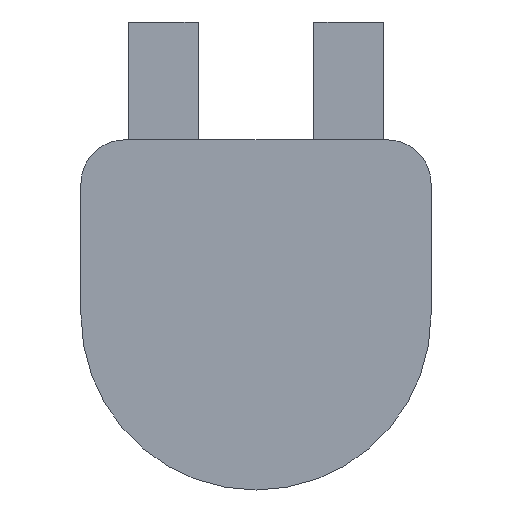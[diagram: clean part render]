
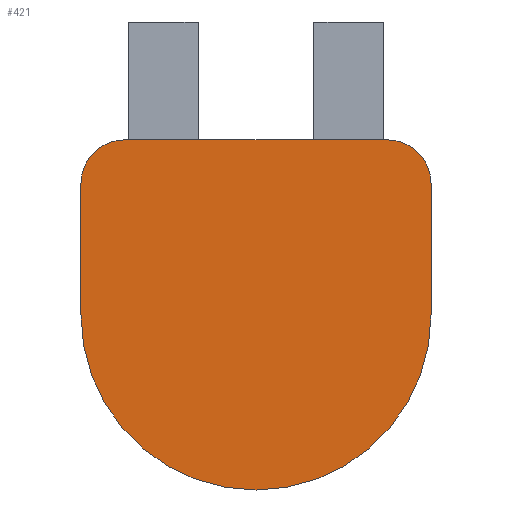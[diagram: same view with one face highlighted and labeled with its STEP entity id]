
A CAD part, front view. The second image highlights one B-rep face of the part: STEP entity #421.
In plain terms, the highlighted planar face has unit normal (0, -1, 0).
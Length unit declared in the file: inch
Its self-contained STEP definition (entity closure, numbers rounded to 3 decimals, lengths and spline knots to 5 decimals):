
#1 = CARTESIAN_POINT ( 'NONE',  ( -0.5625, 0., 0.5625 ) ) ;
#7 = ORIENTED_EDGE ( 'NONE', *, *, #392, .F. ) ;
#10 = VECTOR ( 'NONE', #273, 39.37008 ) ;
#18 = VERTEX_POINT ( 'NONE', #216 ) ;
#26 = CARTESIAN_POINT ( 'NONE',  ( 0., 0., 0. ) ) ;
#33 = DIRECTION ( 'NONE',  ( 0., 1., 0. ) ) ;
#37 = DIRECTION ( 'NONE',  ( 0., 1., 0. ) ) ;
#45 = DIRECTION ( 'NONE',  ( 0., 0., 1. ) ) ;
#56 = VERTEX_POINT ( 'NONE', #122 ) ;
#75 = CIRCLE ( 'NONE', #191, 0.75 ) ;
#86 = DIRECTION ( 'NONE',  ( 0., 1., 0. ) ) ;
#99 = EDGE_CURVE ( 'NONE', #434, #205, #452, .T. ) ;
#104 = VECTOR ( 'NONE', #306, 39.37008 ) ;
#122 = CARTESIAN_POINT ( 'NONE',  ( -0.5625, 0., 0.75 ) ) ;
#123 = CIRCLE ( 'NONE', #217, 0.1875 ) ;
#127 = DIRECTION ( 'NONE',  ( 0., 0., 1. ) ) ;
#128 = DIRECTION ( 'NONE',  ( 0., 0., 1. ) ) ;
#156 = CIRCLE ( 'NONE', #499, 0.1875 ) ;
#177 = LINE ( 'NONE', #353, #508 ) ;
#182 = CARTESIAN_POINT ( 'NONE',  ( -0.75, 0., 0. ) ) ;
#184 = FACE_OUTER_BOUND ( 'NONE', #209, .T. ) ;
#191 = AXIS2_PLACEMENT_3D ( 'NONE', #316, #86, #45 ) ;
#203 = VERTEX_POINT ( 'NONE', #182 ) ;
#205 = VERTEX_POINT ( 'NONE', #319 ) ;
#209 = EDGE_LOOP ( 'NONE', ( #326, #377, #289, #427, #7, #331, #284 ) ) ;
#216 = CARTESIAN_POINT ( 'NONE',  ( -0.75, 0., 0.5625 ) ) ;
#217 = AXIS2_PLACEMENT_3D ( 'NONE', #1, #357, #127 ) ;
#223 = LINE ( 'NONE', #526, #10 ) ;
#232 = CARTESIAN_POINT ( 'NONE',  ( 0., 0., 0.75 ) ) ;
#238 = EDGE_CURVE ( 'NONE', #18, #56, #123, .T. ) ;
#273 = DIRECTION ( 'NONE',  ( 0., 0., -1. ) ) ;
#284 = ORIENTED_EDGE ( 'NONE', *, *, #238, .F. ) ;
#289 = ORIENTED_EDGE ( 'NONE', *, *, #99, .F. ) ;
#306 = DIRECTION ( 'NONE',  ( 1., 0., 0. ) ) ;
#312 = DIRECTION ( 'NONE',  ( 0., 1., 0. ) ) ;
#316 = CARTESIAN_POINT ( 'NONE',  ( 0., 0., 0. ) ) ;
#319 = CARTESIAN_POINT ( 'NONE',  ( 0., 0., -0.75 ) ) ;
#326 = ORIENTED_EDGE ( 'NONE', *, *, #438, .F. ) ;
#328 = VERTEX_POINT ( 'NONE', #366 ) ;
#331 = ORIENTED_EDGE ( 'NONE', *, *, #399, .F. ) ;
#349 = CARTESIAN_POINT ( 'NONE',  ( 0.75, 0., 0. ) ) ;
#353 = CARTESIAN_POINT ( 'NONE',  ( -0.75, 0., 0. ) ) ;
#354 = DIRECTION ( 'NONE',  ( 0., 0., 1. ) ) ;
#357 = DIRECTION ( 'NONE',  ( 0., 1., 0. ) ) ;
#361 = CARTESIAN_POINT ( 'NONE',  ( 0., 0., 0. ) ) ;
#363 = AXIS2_PLACEMENT_3D ( 'NONE', #26, #37, #406 ) ;
#364 = EDGE_CURVE ( 'NONE', #564, #434, #223, .T. ) ;
#366 = CARTESIAN_POINT ( 'NONE',  ( 0.5625, 0., 0.75 ) ) ;
#377 = ORIENTED_EDGE ( 'NONE', *, *, #543, .F. ) ;
#392 = EDGE_CURVE ( 'NONE', #328, #564, #156, .T. ) ;
#398 = AXIS2_PLACEMENT_3D ( 'NONE', #361, #33, #457 ) ;
#399 = EDGE_CURVE ( 'NONE', #56, #328, #453, .T. ) ;
#406 = DIRECTION ( 'NONE',  ( 0., 0., 1. ) ) ;
#413 = CARTESIAN_POINT ( 'NONE',  ( 0.5625, 0., 0.5625 ) ) ;
#421 = ADVANCED_FACE ( 'NONE', ( #184 ), #447, .F. ) ;
#427 = ORIENTED_EDGE ( 'NONE', *, *, #364, .F. ) ;
#434 = VERTEX_POINT ( 'NONE', #349 ) ;
#438 = EDGE_CURVE ( 'NONE', #203, #18, #177, .T. ) ;
#447 = PLANE ( 'NONE',  #398 ) ;
#452 = CIRCLE ( 'NONE', #363, 0.75 ) ;
#453 = LINE ( 'NONE', #232, #104 ) ;
#457 = DIRECTION ( 'NONE',  ( 0., 0., 1. ) ) ;
#499 = AXIS2_PLACEMENT_3D ( 'NONE', #413, #312, #354 ) ;
#508 = VECTOR ( 'NONE', #128, 39.37008 ) ;
#526 = CARTESIAN_POINT ( 'NONE',  ( 0.75, 0., 0. ) ) ;
#532 = CARTESIAN_POINT ( 'NONE',  ( 0.75, 0., 0.5625 ) ) ;
#543 = EDGE_CURVE ( 'NONE', #205, #203, #75, .T. ) ;
#564 = VERTEX_POINT ( 'NONE', #532 ) ;
